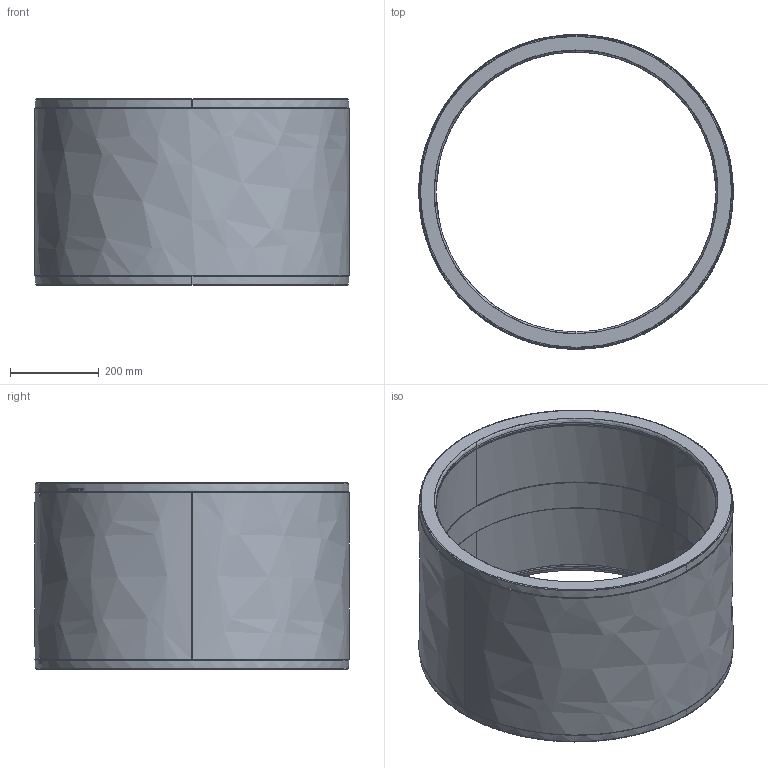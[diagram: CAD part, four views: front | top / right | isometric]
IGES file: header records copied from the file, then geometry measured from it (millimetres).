
Start section:  PTC IGES file: am_d630.igs
Global section: file name: am_d630.igs; native system: Pro/ENGINEER by Parametric Technology Corporation; preprocessor: 2011490; author: mtunjic; organization: Unknown; date: 20130729.162523; units: millimetre
Bounding box: 710 x 710 x 420 mm (x, y, z)
Surface area: 1920719.5 mm2 (no closed solid volume)
Topology: 0 solids, 0 shells, 187 faces, 956 edges, 956 vertices
Faces by surface type: bspline 187
